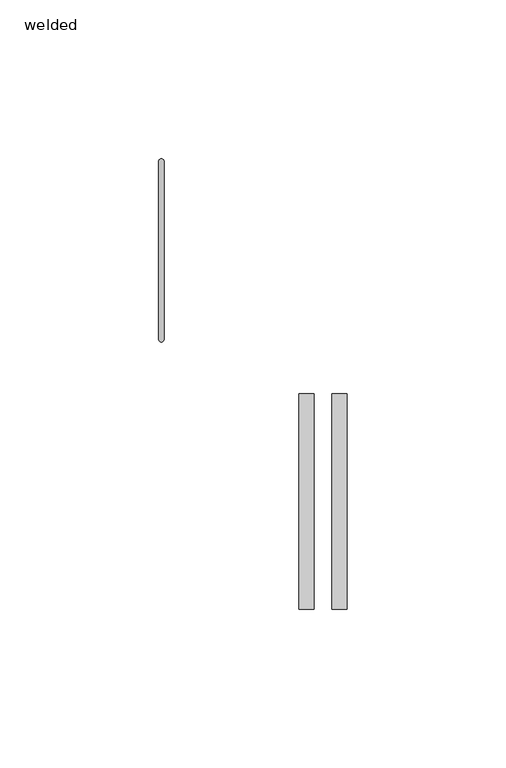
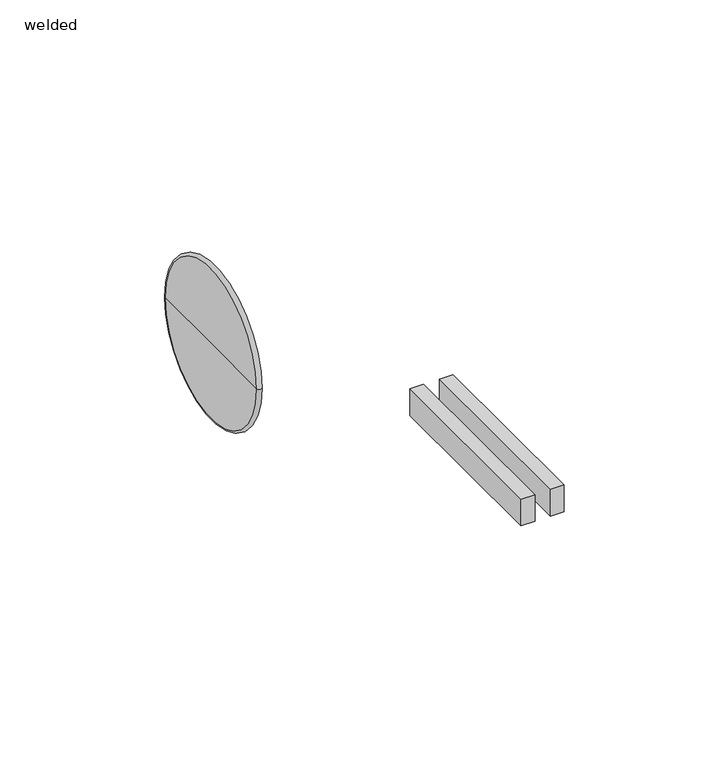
"""IFC4 building model written with IfcOpenShell, lengths in millimetres: pipe fitting geometry, PIF_HDPE weld_Akatherm : welded."""

from ifc_helpers import new_model, si_unit, point, frame, origin, place, context, project, spatial, polyline, circle_curve, ellipse_curve, trimmed, outline, extrude, source, transform, mapped, element, save
from ifc_brep_helpers import plane_surface, revolved_surface, advanced_brep


def welded_dc74d5dd(model_context):
    return source(origin(), model_context, "Body", "SolidModel", [
        extrude(outline(polyline([(42.5311847, -112.9421922), (42.5311847, -45.143993), (47.3087456, -45.143993), (47.3087456, -112.9421922), (42.5311847, -112.9421922)])), frame((0.0, 0.0, -15.0), z_axis=(0.0, 0.0, 1.0), x_axis=(1.0, 0.0, 0.0)), (0.0, 0.0, 1.0), 10.0),
        extrude(outline(polyline([(52.9005519, -112.9421922), (52.9005519, -45.143993), (57.6781127, -45.143993), (57.6781127, -112.9421922), (52.9005519, -112.9421922)])), frame((0.0, 0.0, -15.0), z_axis=(0.0, 0.0, 1.0), x_axis=(1.0, 0.0, 0.0)), (0.0, 0.0, 1.0), 10.0),
        advanced_brep(
        [(-1.7, -28.0, 0.0), (-1.7, 28.0, 0.0), (0.0, 28.0, 0.0), (0.0, -28.0, 0.0), (-1.7, 0.0, 0.0), (0.0, 0.0, 0.0)],
        [
            (0, 1, circle_curve(frame((-1.7, 0.0, 0.0), z_axis=(1.0, 0.0, 0.0), x_axis=(0.0, 1.0, 0.0)), 28.0)),
            (1, 2, circle_curve(frame((-0.85, 28.0, 0.0), z_axis=(0.0, 0.0, -1.0), x_axis=(1.0, 0.0, 0.0)), 0.85)),
            (2, 3, circle_curve(frame((0.0, 0.0, 0.0), z_axis=(-1.0, 0.0, 0.0), x_axis=(0.0, 1.0, 0.0)), 28.0)),
            (3, 0, circle_curve(frame((-0.85, -28.0, 0.0), z_axis=(0.0, 0.0, -1.0), x_axis=(1.0, 0.0, 0.0)), 0.85)),
            (1, 0, circle_curve(frame((-1.7, 0.0, 0.0), z_axis=(1.0, 0.0, 0.0), x_axis=(0.0, 1.0, 0.0)), 28.0)),
            (3, 2, circle_curve(frame((0.0, 0.0, 0.0), z_axis=(-1.0, 0.0, 0.0), x_axis=(0.0, 1.0, 0.0)), 28.0)),
            (4, 1),
            (0, 4),
            (2, 5),
            (5, 3),
        ],
        [
            revolved_surface(trimmed(ellipse_curve(frame((-0.85, 28.0, 0.0), z_axis=(0.0, 0.0, 1.0), x_axis=(1.0, 0.0, 0.0)), 0.85, 0.85), [point((0.0, 28.0, 0.0))], [point((-1.7, 28.0, 0.0))], True, "CARTESIAN"), (-39.85, 0.0, 0.0), (-1.0, 0.0, 0.0)),
            plane_surface(frame((-1.7, 0.0, 0.0), z_axis=(-1.0, 0.0, 0.0), x_axis=(0.0, 1.0, 0.0))),
            plane_surface(frame((0.0, 0.0, 0.0), z_axis=(1.0, 0.0, 0.0), x_axis=(0.0, 1.0, 0.0))),
        ],
        [
            (0, [[1, 2, 3, 4]]),
            (0, [[5, -4, 6, -2]]),
            (1, [[7, -1, 8]]),
            (1, [[-8, -5, -7]]),
            (2, [[-3, 9, 10]]),
            (2, [[-6, -10, -9]]),
        ],
    ),
    ])


if __name__ == "__main__":
    model = new_model("IFC4")
    model_context = context("Model", 3, world=origin())
    ifc_project = project(units=[si_unit("LENGTHUNIT", "METRE", prefix="MILLI")], contexts=[model_context])
    site = spatial("IfcSite", under=ifc_project)
    building = spatial("IfcBuilding", under=site)
    placement = place(None, origin())
    welded_shape = welded_dc74d5dd(model_context)
    element("IfcPipeFitting", 1, ObjectType="PIF_HDPE weld_Akatherm : welded", at=placement, inside=building, context=model_context, shape_type="MappedRepresentation", body=[
        mapped(welded_shape, transform((0.0, 0.0, 0.0), x_axis=(1.0, 0.0, 0.0), y_axis=(0.0, 1.0, 0.0), z_axis=(0.0, 0.0, 1.0))),
    ])
    save(model, "model.ifc")
